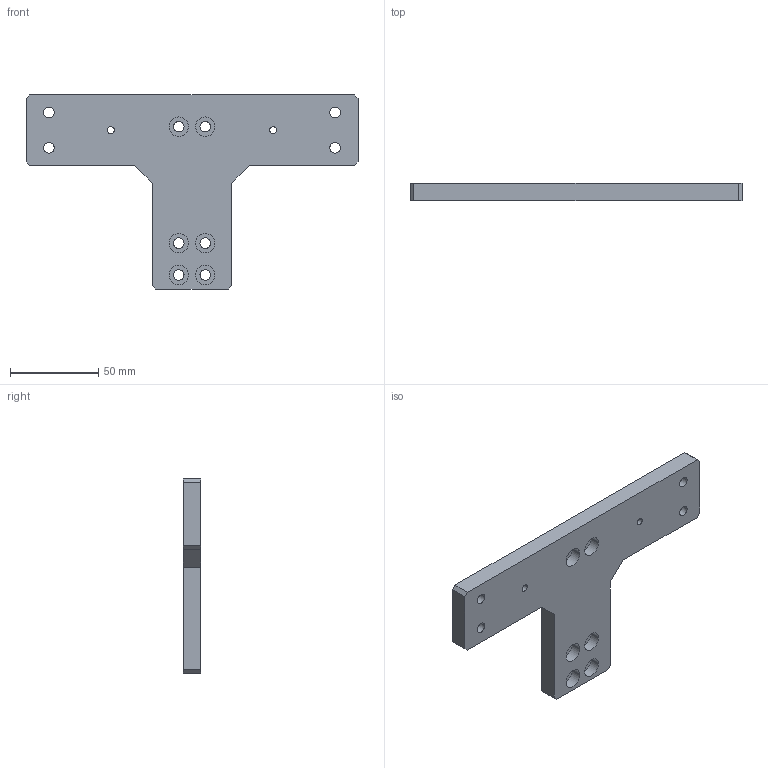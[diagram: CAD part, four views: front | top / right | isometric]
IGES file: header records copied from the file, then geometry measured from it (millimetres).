
Start section:  PTC IGES file: n46-n46m-st.igs
Global section: file name: n46-n46m-st.igs; native system: Pro/ENGINEER by Parametric Technology Corporation; preprocessor: 2008230; author: Owner; organization: Unknown; date: 20121211.161223; units: millimetre
Bounding box: 188 x 10 x 110 mm (x, y, z)
Surface area: 29852.1 mm2 (no closed solid volume)
Topology: 0 solids, 0 shells, 78 faces, 384 edges, 384 vertices
Faces by surface type: revolution 48, bspline 30
